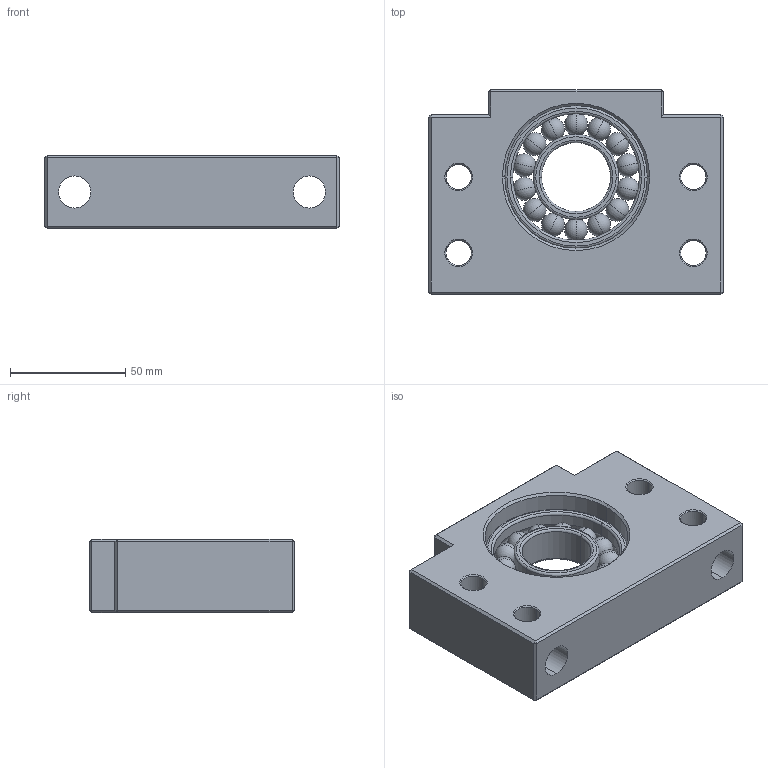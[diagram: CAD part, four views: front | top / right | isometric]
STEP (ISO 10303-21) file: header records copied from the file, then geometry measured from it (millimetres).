
FILE_DESCRIPTION (( 'STEP AP203' ), '1' );
FILE_NAME ('BF30²Õ¦X¥ó.STEP', '2017-12-27T08:17:29', ( '' ), ( '' ), 'SwSTEP 2.0', 'SolidWorks 2017', '' );
FILE_SCHEMA (( 'CONFIG_CONTROL_DESIGN' ));
Length unit declared in the file: millimetre
Products named in the file (1): BF30組合件
Bounding box: 128 x 89 x 32 mm (x, y, z)
Surface area: 55220.6 mm2 (no closed solid volume)
Topology: 0 solids, 17 shells, 160 faces, 408 edges, 248 vertices
Faces by surface type: plane 50, cylinder 36, sphere 28, cone 24, torus 22
Entity records: 4987 total; most frequent: CARTESIAN_POINT 1409, DIRECTION 780, ORIENTED_EDGE 672, EDGE_CURVE 338, AXIS2_PLACEMENT_3D 313, VERTEX_POINT 206, EDGE_LOOP 180, ADVANCED_FACE 160
